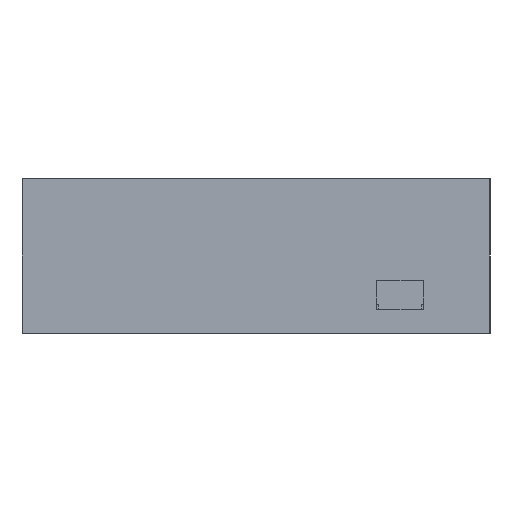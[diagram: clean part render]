
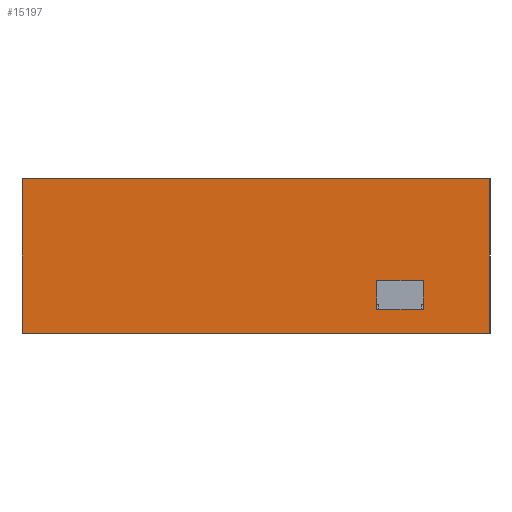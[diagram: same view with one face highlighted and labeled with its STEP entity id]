
A CAD part, left-side view. The second image highlights one B-rep face of the part: STEP entity #15197.
In plain terms, the highlighted planar face has unit normal (-1, 0, 0).
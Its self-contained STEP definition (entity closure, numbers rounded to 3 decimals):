
#2491 = PLANE('',#2492);
#2492 = AXIS2_PLACEMENT_3D('',#2493,#2494,#2495);
#2493 = CARTESIAN_POINT('',(-93.,-65.,43.));
#2494 = DIRECTION('',(0.,0.,1.));
#2495 = DIRECTION('',(1.,0.,0.));
#2568 = PLANE('',#2569);
#2569 = AXIS2_PLACEMENT_3D('',#2570,#2571,#2572);
#2570 = CARTESIAN_POINT('',(-97.,-46.5,6.69));
#2571 = DIRECTION('',(0.,0.,1.));
#2572 = DIRECTION('',(1.,0.,0.));
#2594 = PLANE('',#2595);
#2595 = AXIS2_PLACEMENT_3D('',#2596,#2597,#2598);
#2596 = CARTESIAN_POINT('',(-97.,-46.5,6.69));
#2597 = DIRECTION('',(0.,1.,0.));
#2598 = DIRECTION('',(0.,0.,1.));
#2620 = PLANE('',#2621);
#2621 = AXIS2_PLACEMENT_3D('',#2622,#2623,#2624);
#2622 = CARTESIAN_POINT('',(-97.,-46.5,14.69));
#2623 = DIRECTION('',(0.,0.,1.));
#2624 = DIRECTION('',(1.,0.,0.));
#2644 = PLANE('',#2645);
#2645 = AXIS2_PLACEMENT_3D('',#2646,#2647,#2648);
#2646 = CARTESIAN_POINT('',(-97.,-33.5,6.69));
#2647 = DIRECTION('',(0.,1.,0.));
#2648 = DIRECTION('',(0.,0.,1.));
#5198 = PLANE('',#5199);
#5199 = AXIS2_PLACEMENT_3D('',#5200,#5201,#5202);
#5200 = CARTESIAN_POINT('',(-93.,-65.,0.));
#5201 = DIRECTION('',(0.,0.,1.));
#5202 = DIRECTION('',(1.,0.,0.));
#7464 = EDGE_CURVE('',#7465,#7467,#7469,.T.);
#7465 = VERTEX_POINT('',#7466);
#7466 = CARTESIAN_POINT('',(-93.,-65.,43.));
#7467 = VERTEX_POINT('',#7468);
#7468 = CARTESIAN_POINT('',(-93.,65.,43.));
#7469 = SURFACE_CURVE('',#7470,(#7474,#7481),.PCURVE_S1.);
#7470 = LINE('',#7471,#7472);
#7471 = CARTESIAN_POINT('',(-93.,-65.,43.));
#7472 = VECTOR('',#7473,1.);
#7473 = DIRECTION('',(0.,1.,0.));
#7474 = PCURVE('',#2491,#7475);
#7475 = DEFINITIONAL_REPRESENTATION('',(#7476),#7480);
#7476 = LINE('',#7477,#7478);
#7477 = CARTESIAN_POINT('',(0.,0.));
#7478 = VECTOR('',#7479,1.);
#7479 = DIRECTION('',(0.,1.));
#7480 = ( GEOMETRIC_REPRESENTATION_CONTEXT(2) 
PARAMETRIC_REPRESENTATION_CONTEXT() REPRESENTATION_CONTEXT('2D SPACE',''
  ) );
#7481 = PCURVE('',#7482,#7487);
#7482 = PLANE('',#7483);
#7483 = AXIS2_PLACEMENT_3D('',#7484,#7485,#7486);
#7484 = CARTESIAN_POINT('',(-93.,-65.,0.));
#7485 = DIRECTION('',(1.,0.,0.));
#7486 = DIRECTION('',(0.,0.,1.));
#7487 = DEFINITIONAL_REPRESENTATION('',(#7488),#7492);
#7488 = LINE('',#7489,#7490);
#7489 = CARTESIAN_POINT('',(43.,0.));
#7490 = VECTOR('',#7491,1.);
#7491 = DIRECTION('',(0.,-1.));
#7492 = ( GEOMETRIC_REPRESENTATION_CONTEXT(2) 
PARAMETRIC_REPRESENTATION_CONTEXT() REPRESENTATION_CONTEXT('2D SPACE',''
  ) );
#7510 = PLANE('',#7511);
#7511 = AXIS2_PLACEMENT_3D('',#7512,#7513,#7514);
#7512 = CARTESIAN_POINT('',(-93.,-65.,0.));
#7513 = DIRECTION('',(0.,1.,0.));
#7514 = DIRECTION('',(0.,0.,1.));
#7564 = PLANE('',#7565);
#7565 = AXIS2_PLACEMENT_3D('',#7566,#7567,#7568);
#7566 = CARTESIAN_POINT('',(-93.,65.,0.));
#7567 = DIRECTION('',(0.,1.,0.));
#7568 = DIRECTION('',(0.,0.,1.));
#7586 = VERTEX_POINT('',#7587);
#7587 = CARTESIAN_POINT('',(-93.,-33.5,6.69));
#7608 = EDGE_CURVE('',#7586,#7609,#7611,.T.);
#7609 = VERTEX_POINT('',#7610);
#7610 = CARTESIAN_POINT('',(-93.,-46.5,6.69));
#7611 = SURFACE_CURVE('',#7612,(#7616,#7622),.PCURVE_S1.);
#7612 = LINE('',#7613,#7614);
#7613 = CARTESIAN_POINT('',(-93.,-55.75,6.69));
#7614 = VECTOR('',#7615,1.);
#7615 = DIRECTION('',(0.,-1.,0.));
#7616 = PCURVE('',#2568,#7617);
#7617 = DEFINITIONAL_REPRESENTATION('',(#7618),#7621);
#7618 = B_SPLINE_CURVE_WITH_KNOTS('',1,(#7619,#7620),.UNSPECIFIED.,.F.,
  .F.,(2,2),(-22.25,-9.25),.PIECEWISE_BEZIER_KNOTS.);
#7619 = CARTESIAN_POINT('',(4.,13.));
#7620 = CARTESIAN_POINT('',(4.,0.));
#7621 = ( GEOMETRIC_REPRESENTATION_CONTEXT(2) 
PARAMETRIC_REPRESENTATION_CONTEXT() REPRESENTATION_CONTEXT('2D SPACE',''
  ) );
#7622 = PCURVE('',#7482,#7623);
#7623 = DEFINITIONAL_REPRESENTATION('',(#7624),#7627);
#7624 = B_SPLINE_CURVE_WITH_KNOTS('',1,(#7625,#7626),.UNSPECIFIED.,.F.,
  .F.,(2,2),(-22.25,-9.25),.PIECEWISE_BEZIER_KNOTS.);
#7625 = CARTESIAN_POINT('',(6.69,-31.5));
#7626 = CARTESIAN_POINT('',(6.69,-18.5));
#7627 = ( GEOMETRIC_REPRESENTATION_CONTEXT(2) 
PARAMETRIC_REPRESENTATION_CONTEXT() REPRESENTATION_CONTEXT('2D SPACE',''
  ) );
#7655 = EDGE_CURVE('',#7586,#7656,#7658,.T.);
#7656 = VERTEX_POINT('',#7657);
#7657 = CARTESIAN_POINT('',(-93.,-33.5,14.69));
#7658 = SURFACE_CURVE('',#7659,(#7663,#7669),.PCURVE_S1.);
#7659 = LINE('',#7660,#7661);
#7660 = CARTESIAN_POINT('',(-93.,-33.5,3.345));
#7661 = VECTOR('',#7662,1.);
#7662 = DIRECTION('',(0.,0.,1.));
#7663 = PCURVE('',#2644,#7664);
#7664 = DEFINITIONAL_REPRESENTATION('',(#7665),#7668);
#7665 = B_SPLINE_CURVE_WITH_KNOTS('',1,(#7666,#7667),.UNSPECIFIED.,.F.,
  .F.,(2,2),(3.345,11.345),.PIECEWISE_BEZIER_KNOTS.);
#7666 = CARTESIAN_POINT('',(0.,4.));
#7667 = CARTESIAN_POINT('',(8.,4.));
#7668 = ( GEOMETRIC_REPRESENTATION_CONTEXT(2) 
PARAMETRIC_REPRESENTATION_CONTEXT() REPRESENTATION_CONTEXT('2D SPACE',''
  ) );
#7669 = PCURVE('',#7482,#7670);
#7670 = DEFINITIONAL_REPRESENTATION('',(#7671),#7674);
#7671 = B_SPLINE_CURVE_WITH_KNOTS('',1,(#7672,#7673),.UNSPECIFIED.,.F.,
  .F.,(2,2),(3.345,11.345),.PIECEWISE_BEZIER_KNOTS.);
#7672 = CARTESIAN_POINT('',(6.69,-31.5));
#7673 = CARTESIAN_POINT('',(14.69,-31.5));
#7674 = ( GEOMETRIC_REPRESENTATION_CONTEXT(2) 
PARAMETRIC_REPRESENTATION_CONTEXT() REPRESENTATION_CONTEXT('2D SPACE',''
  ) );
#7702 = EDGE_CURVE('',#7656,#7703,#7705,.T.);
#7703 = VERTEX_POINT('',#7704);
#7704 = CARTESIAN_POINT('',(-93.,-46.5,14.69));
#7705 = SURFACE_CURVE('',#7706,(#7710,#7716),.PCURVE_S1.);
#7706 = LINE('',#7707,#7708);
#7707 = CARTESIAN_POINT('',(-93.,-55.75,14.69));
#7708 = VECTOR('',#7709,1.);
#7709 = DIRECTION('',(0.,-1.,0.));
#7710 = PCURVE('',#2620,#7711);
#7711 = DEFINITIONAL_REPRESENTATION('',(#7712),#7715);
#7712 = B_SPLINE_CURVE_WITH_KNOTS('',1,(#7713,#7714),.UNSPECIFIED.,.F.,
  .F.,(2,2),(-22.25,-9.25),.PIECEWISE_BEZIER_KNOTS.);
#7713 = CARTESIAN_POINT('',(4.,13.));
#7714 = CARTESIAN_POINT('',(4.,0.));
#7715 = ( GEOMETRIC_REPRESENTATION_CONTEXT(2) 
PARAMETRIC_REPRESENTATION_CONTEXT() REPRESENTATION_CONTEXT('2D SPACE',''
  ) );
#7716 = PCURVE('',#7482,#7717);
#7717 = DEFINITIONAL_REPRESENTATION('',(#7718),#7721);
#7718 = B_SPLINE_CURVE_WITH_KNOTS('',1,(#7719,#7720),.UNSPECIFIED.,.F.,
  .F.,(2,2),(-22.25,-9.25),.PIECEWISE_BEZIER_KNOTS.);
#7719 = CARTESIAN_POINT('',(14.69,-31.5));
#7720 = CARTESIAN_POINT('',(14.69,-18.5));
#7721 = ( GEOMETRIC_REPRESENTATION_CONTEXT(2) 
PARAMETRIC_REPRESENTATION_CONTEXT() REPRESENTATION_CONTEXT('2D SPACE',''
  ) );
#7749 = EDGE_CURVE('',#7609,#7703,#7750,.T.);
#7750 = SURFACE_CURVE('',#7751,(#7755,#7761),.PCURVE_S1.);
#7751 = LINE('',#7752,#7753);
#7752 = CARTESIAN_POINT('',(-93.,-46.5,3.345));
#7753 = VECTOR('',#7754,1.);
#7754 = DIRECTION('',(0.,0.,1.));
#7755 = PCURVE('',#2594,#7756);
#7756 = DEFINITIONAL_REPRESENTATION('',(#7757),#7760);
#7757 = B_SPLINE_CURVE_WITH_KNOTS('',1,(#7758,#7759),.UNSPECIFIED.,.F.,
  .F.,(2,2),(3.345,11.345),.PIECEWISE_BEZIER_KNOTS.);
#7758 = CARTESIAN_POINT('',(0.,4.));
#7759 = CARTESIAN_POINT('',(8.,4.));
#7760 = ( GEOMETRIC_REPRESENTATION_CONTEXT(2) 
PARAMETRIC_REPRESENTATION_CONTEXT() REPRESENTATION_CONTEXT('2D SPACE',''
  ) );
#7761 = PCURVE('',#7482,#7762);
#7762 = DEFINITIONAL_REPRESENTATION('',(#7763),#7766);
#7763 = B_SPLINE_CURVE_WITH_KNOTS('',1,(#7764,#7765),.UNSPECIFIED.,.F.,
  .F.,(2,2),(3.345,11.345),.PIECEWISE_BEZIER_KNOTS.);
#7764 = CARTESIAN_POINT('',(6.69,-18.5));
#7765 = CARTESIAN_POINT('',(14.69,-18.5));
#7766 = ( GEOMETRIC_REPRESENTATION_CONTEXT(2) 
PARAMETRIC_REPRESENTATION_CONTEXT() REPRESENTATION_CONTEXT('2D SPACE',''
  ) );
#10324 = EDGE_CURVE('',#10325,#10327,#10329,.T.);
#10325 = VERTEX_POINT('',#10326);
#10326 = CARTESIAN_POINT('',(-93.,-65.,0.));
#10327 = VERTEX_POINT('',#10328);
#10328 = CARTESIAN_POINT('',(-93.,65.,0.));
#10329 = SURFACE_CURVE('',#10330,(#10334,#10341),.PCURVE_S1.);
#10330 = LINE('',#10331,#10332);
#10331 = CARTESIAN_POINT('',(-93.,-65.,0.));
#10332 = VECTOR('',#10333,1.);
#10333 = DIRECTION('',(0.,1.,0.));
#10334 = PCURVE('',#5198,#10335);
#10335 = DEFINITIONAL_REPRESENTATION('',(#10336),#10340);
#10336 = LINE('',#10337,#10338);
#10337 = CARTESIAN_POINT('',(0.,0.));
#10338 = VECTOR('',#10339,1.);
#10339 = DIRECTION('',(0.,1.));
#10340 = ( GEOMETRIC_REPRESENTATION_CONTEXT(2) 
PARAMETRIC_REPRESENTATION_CONTEXT() REPRESENTATION_CONTEXT('2D SPACE',''
  ) );
#10341 = PCURVE('',#7482,#10342);
#10342 = DEFINITIONAL_REPRESENTATION('',(#10343),#10347);
#10343 = LINE('',#10344,#10345);
#10344 = CARTESIAN_POINT('',(0.,0.));
#10345 = VECTOR('',#10346,1.);
#10346 = DIRECTION('',(0.,-1.));
#10347 = ( GEOMETRIC_REPRESENTATION_CONTEXT(2) 
PARAMETRIC_REPRESENTATION_CONTEXT() REPRESENTATION_CONTEXT('2D SPACE',''
  ) );
#15197 = ADVANCED_FACE('',(#15198,#15244),#7482,.F.);
#15198 = FACE_BOUND('',#15199,.F.);
#15199 = EDGE_LOOP('',(#15200,#15221,#15222,#15243));
#15200 = ORIENTED_EDGE('',*,*,#15201,.F.);
#15201 = EDGE_CURVE('',#10325,#7465,#15202,.T.);
#15202 = SURFACE_CURVE('',#15203,(#15207,#15214),.PCURVE_S1.);
#15203 = LINE('',#15204,#15205);
#15204 = CARTESIAN_POINT('',(-93.,-65.,0.));
#15205 = VECTOR('',#15206,1.);
#15206 = DIRECTION('',(0.,0.,1.));
#15207 = PCURVE('',#7482,#15208);
#15208 = DEFINITIONAL_REPRESENTATION('',(#15209),#15213);
#15209 = LINE('',#15210,#15211);
#15210 = CARTESIAN_POINT('',(0.,0.));
#15211 = VECTOR('',#15212,1.);
#15212 = DIRECTION('',(1.,0.));
#15213 = ( GEOMETRIC_REPRESENTATION_CONTEXT(2) 
PARAMETRIC_REPRESENTATION_CONTEXT() REPRESENTATION_CONTEXT('2D SPACE',''
  ) );
#15214 = PCURVE('',#7510,#15215);
#15215 = DEFINITIONAL_REPRESENTATION('',(#15216),#15220);
#15216 = LINE('',#15217,#15218);
#15217 = CARTESIAN_POINT('',(0.,0.));
#15218 = VECTOR('',#15219,1.);
#15219 = DIRECTION('',(1.,0.));
#15220 = ( GEOMETRIC_REPRESENTATION_CONTEXT(2) 
PARAMETRIC_REPRESENTATION_CONTEXT() REPRESENTATION_CONTEXT('2D SPACE',''
  ) );
#15221 = ORIENTED_EDGE('',*,*,#10324,.T.);
#15222 = ORIENTED_EDGE('',*,*,#15223,.T.);
#15223 = EDGE_CURVE('',#10327,#7467,#15224,.T.);
#15224 = SURFACE_CURVE('',#15225,(#15229,#15236),.PCURVE_S1.);
#15225 = LINE('',#15226,#15227);
#15226 = CARTESIAN_POINT('',(-93.,65.,0.));
#15227 = VECTOR('',#15228,1.);
#15228 = DIRECTION('',(0.,0.,1.));
#15229 = PCURVE('',#7482,#15230);
#15230 = DEFINITIONAL_REPRESENTATION('',(#15231),#15235);
#15231 = LINE('',#15232,#15233);
#15232 = CARTESIAN_POINT('',(0.,-130.));
#15233 = VECTOR('',#15234,1.);
#15234 = DIRECTION('',(1.,0.));
#15235 = ( GEOMETRIC_REPRESENTATION_CONTEXT(2) 
PARAMETRIC_REPRESENTATION_CONTEXT() REPRESENTATION_CONTEXT('2D SPACE',''
  ) );
#15236 = PCURVE('',#7564,#15237);
#15237 = DEFINITIONAL_REPRESENTATION('',(#15238),#15242);
#15238 = LINE('',#15239,#15240);
#15239 = CARTESIAN_POINT('',(0.,0.));
#15240 = VECTOR('',#15241,1.);
#15241 = DIRECTION('',(1.,0.));
#15242 = ( GEOMETRIC_REPRESENTATION_CONTEXT(2) 
PARAMETRIC_REPRESENTATION_CONTEXT() REPRESENTATION_CONTEXT('2D SPACE',''
  ) );
#15243 = ORIENTED_EDGE('',*,*,#7464,.F.);
#15244 = FACE_BOUND('',#15245,.F.);
#15245 = EDGE_LOOP('',(#15246,#15247,#15248,#15249));
#15246 = ORIENTED_EDGE('',*,*,#7608,.T.);
#15247 = ORIENTED_EDGE('',*,*,#7749,.T.);
#15248 = ORIENTED_EDGE('',*,*,#7702,.F.);
#15249 = ORIENTED_EDGE('',*,*,#7655,.F.);
